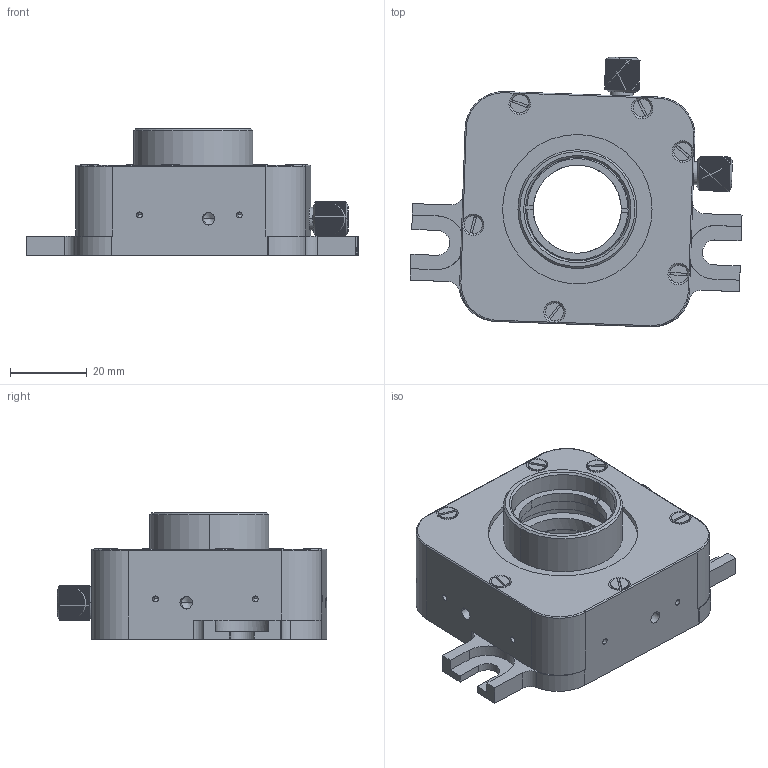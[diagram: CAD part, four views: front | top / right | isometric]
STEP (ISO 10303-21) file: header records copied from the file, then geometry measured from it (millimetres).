
FILE_DESCRIPTION (( 'STEP AP203' ), '1' );
FILE_NAME ('5TOM2-1.STEP', '2011-02-11T08:17:18', ( 'Darius' ), ( '' ), 'SwSTEP 2.0', 'SolidWorks 2003240', '' );
FILE_SCHEMA (( 'CONFIG_CONTROL_DESIGN' ));
Length unit declared in the file: millimetre
Products named in the file (1): 5TOM2-1
Bounding box: 86.64 x 70.43 x 33 mm (x, y, z)
Volume: 67934.2 mm3; surface area: 22205.1 mm2
Topology: 1 solids, 5 shells, 575 faces, 1542 edges, 993 vertices
Faces by surface type: plane 352, cylinder 140, cone 71, bspline 12
Entity records: 18543 total; most frequent: CARTESIAN_POINT 4872, ORIENTED_EDGE 3036, DIRECTION 2540, EDGE_CURVE 1518, VERTEX_POINT 993, AXIS2_PLACEMENT_3D 941, VECTOR 658, LINE 658
